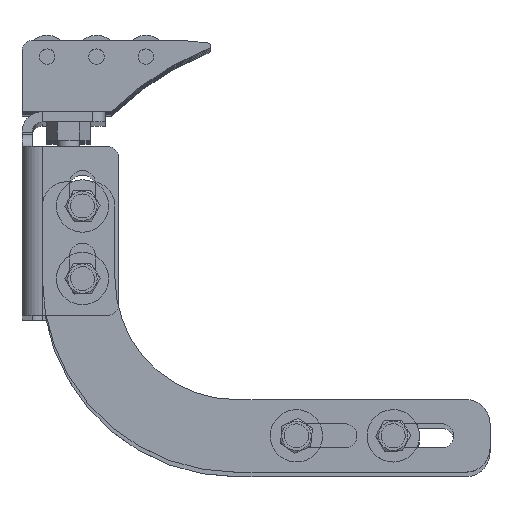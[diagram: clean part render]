
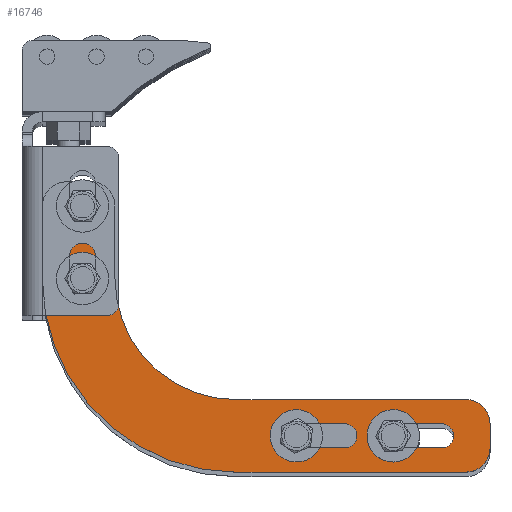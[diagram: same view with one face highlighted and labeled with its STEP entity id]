
A CAD part, top view. The second image highlights one B-rep face of the part: STEP entity #16746.
In plain terms, the highlighted planar face has unit normal (0, 0, 1) as drawn and (0, 0, -1) by its records, which use the part's own axes.
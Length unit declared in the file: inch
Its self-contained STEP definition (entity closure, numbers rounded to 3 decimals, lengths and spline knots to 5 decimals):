
#16099=DIRECTION('',(1.,0.,0.));
#16100=VECTOR('',#16099,0.5);
#16101=CARTESIAN_POINT('',(-4.125,0.5,-0.25));
#16102=LINE('',#16101,#16100);
#16213=DIRECTION('',(0.,-1.,0.));
#16214=VECTOR('',#16213,0.75);
#16215=CARTESIAN_POINT('',(0.,2.75,-0.25));
#16216=LINE('',#16215,#16214);
#16217=CARTESIAN_POINT('',(-0.25,2.75,-0.25));
#16218=DIRECTION('',(0.,0.,-1.));
#16219=DIRECTION('',(0.,1.,0.));
#16220=AXIS2_PLACEMENT_3D('',#16217,#16218,#16219);
#16222=DIRECTION('',(1.,0.,0.));
#16223=VECTOR('',#16222,0.25);
#16224=CARTESIAN_POINT('',(-0.5,3.,-0.25));
#16225=LINE('',#16224,#16223);
#16226=CARTESIAN_POINT('',(-0.5,2.75,-0.25));
#16227=DIRECTION('',(0.,0.,-1.));
#16228=DIRECTION('',(-1.,0.,0.));
#16229=AXIS2_PLACEMENT_3D('',#16226,#16227,#16228);
#16231=DIRECTION('',(0.,1.,0.));
#16232=VECTOR('',#16231,0.75);
#16233=CARTESIAN_POINT('',(-0.75,2.,-0.25));
#16234=LINE('',#16233,#16232);
#16235=CARTESIAN_POINT('',(-2.,2.,-0.25));
#16236=DIRECTION('',(0.,0.,1.));
#16237=DIRECTION('',(0.,-1.,0.));
#16238=AXIS2_PLACEMENT_3D('',#16235,#16236,#16237);
#16240=DIRECTION('',(1.,0.,0.));
#16241=VECTOR('',#16240,2.375);
#16242=CARTESIAN_POINT('',(-4.375,0.75,-0.25));
#16243=LINE('',#16242,#16241);
#16244=CARTESIAN_POINT('',(-4.375,0.5,-0.25));
#16245=DIRECTION('',(0.,0.,-1.));
#16246=DIRECTION('',(-1.,0.,0.));
#16247=AXIS2_PLACEMENT_3D('',#16244,#16245,#16246);
#16249=DIRECTION('',(0.,1.,0.));
#16250=VECTOR('',#16249,0.25);
#16251=CARTESIAN_POINT('',(-4.625,0.25,-0.25));
#16252=LINE('',#16251,#16250);
#16253=CARTESIAN_POINT('',(-4.375,0.25,-0.25));
#16254=DIRECTION('',(0.,0.,-1.));
#16255=DIRECTION('',(0.,-1.,0.));
#16256=AXIS2_PLACEMENT_3D('',#16253,#16254,#16255);
#16258=DIRECTION('',(-1.,0.,0.));
#16259=VECTOR('',#16258,2.375);
#16260=CARTESIAN_POINT('',(-2.,0.,-0.25));
#16261=LINE('',#16260,#16259);
#16262=CARTESIAN_POINT('',(-2.,2.,-0.25));
#16263=DIRECTION('',(0.,0.,-1.));
#16264=DIRECTION('',(1.,0.,0.));
#16265=AXIS2_PLACEMENT_3D('',#16262,#16263,#16264);
#16267=CARTESIAN_POINT('',(-0.4145,2.,-0.25));
#16268=DIRECTION('',(0.,0.,1.));
#16269=DIRECTION('',(1.,0.,0.));
#16270=AXIS2_PLACEMENT_3D('',#16267,#16268,#16269);
#16272=CARTESIAN_POINT('',(-0.4145,2.,-0.25));
#16273=DIRECTION('',(0.,0.,1.));
#16274=DIRECTION('',(-1.,0.,0.));
#16275=AXIS2_PLACEMENT_3D('',#16272,#16273,#16274);
#16277=CARTESIAN_POINT('',(-0.4145,2.75,-0.25));
#16278=DIRECTION('',(0.,0.,1.));
#16279=DIRECTION('',(1.,0.,0.));
#16280=AXIS2_PLACEMENT_3D('',#16277,#16278,#16279);
#16282=CARTESIAN_POINT('',(-0.4145,2.75,-0.25));
#16283=DIRECTION('',(0.,0.,1.));
#16284=DIRECTION('',(-1.,0.,0.));
#16285=AXIS2_PLACEMENT_3D('',#16282,#16283,#16284);
#16287=CARTESIAN_POINT('',(-2.625,0.375,-0.25));
#16288=DIRECTION('',(0.,0.,1.));
#16289=DIRECTION('',(1.,0.,0.));
#16290=AXIS2_PLACEMENT_3D('',#16287,#16288,#16289);
#16292=CARTESIAN_POINT('',(-2.625,0.375,-0.25));
#16293=DIRECTION('',(0.,0.,1.));
#16294=DIRECTION('',(0.,-1.,0.));
#16295=AXIS2_PLACEMENT_3D('',#16292,#16293,#16294);
#16297=CARTESIAN_POINT('',(-3.125,0.375,-0.25));
#16298=DIRECTION('',(0.,0.,1.));
#16299=DIRECTION('',(-1.,0.,0.));
#16300=AXIS2_PLACEMENT_3D('',#16297,#16298,#16299);
#16302=CARTESIAN_POINT('',(-3.125,0.375,-0.25));
#16303=DIRECTION('',(0.,0.,1.));
#16304=DIRECTION('',(0.,1.,0.));
#16305=AXIS2_PLACEMENT_3D('',#16302,#16303,#16304);
#16307=CARTESIAN_POINT('',(-3.625,0.375,-0.25));
#16308=DIRECTION('',(0.,0.,1.));
#16309=DIRECTION('',(1.,0.,0.));
#16310=AXIS2_PLACEMENT_3D('',#16307,#16308,#16309);
#16312=CARTESIAN_POINT('',(-3.625,0.375,-0.25));
#16313=DIRECTION('',(0.,0.,1.));
#16314=DIRECTION('',(0.,-1.,0.));
#16315=AXIS2_PLACEMENT_3D('',#16312,#16313,#16314);
#16317=CARTESIAN_POINT('',(-4.125,0.375,-0.25));
#16318=DIRECTION('',(0.,0.,1.));
#16319=DIRECTION('',(-1.,0.,0.));
#16320=AXIS2_PLACEMENT_3D('',#16317,#16318,#16319);
#16322=CARTESIAN_POINT('',(-4.125,0.375,-0.25));
#16323=DIRECTION('',(0.,0.,1.));
#16324=DIRECTION('',(0.,1.,0.));
#16325=AXIS2_PLACEMENT_3D('',#16322,#16323,#16324);
#16411=DIRECTION('',(1.,0.,0.));
#16412=VECTOR('',#16411,0.5);
#16413=CARTESIAN_POINT('',(-3.125,0.5,-0.25));
#16414=LINE('',#16413,#16412);
#16427=DIRECTION('',(-1.,0.,0.));
#16428=VECTOR('',#16427,0.5);
#16429=CARTESIAN_POINT('',(-2.625,0.25,-0.25));
#16430=LINE('',#16429,#16428);
#16451=DIRECTION('',(-1.,0.,0.));
#16452=VECTOR('',#16451,0.5);
#16453=CARTESIAN_POINT('',(-3.625,0.25,-0.25));
#16454=LINE('',#16453,#16452);
#16463=CARTESIAN_POINT('',(-0.25,3.,-0.25));
#16464=CARTESIAN_POINT('',(0.,2.75,-0.25));
#16465=VERTEX_POINT('',#16463);
#16466=VERTEX_POINT('',#16464);
#16471=CARTESIAN_POINT('',(-3.5,0.375,-0.25));
#16472=CARTESIAN_POINT('',(-3.625,0.5,-0.25));
#16473=VERTEX_POINT('',#16471);
#16474=VERTEX_POINT('',#16472);
#16476=CARTESIAN_POINT('',(-2.625,0.5,-0.25));
#16478=VERTEX_POINT('',#16476);
#16480=CARTESIAN_POINT('',(-0.75,2.,-0.25));
#16482=VERTEX_POINT('',#16480);
#16484=CARTESIAN_POINT('',(-0.31607,2.,-0.25));
#16486=VERTEX_POINT('',#16484);
#16488=CARTESIAN_POINT('',(-0.31607,2.75,-0.25));
#16490=VERTEX_POINT('',#16488);
#16499=CARTESIAN_POINT('',(-0.75,2.75,-0.25));
#16501=VERTEX_POINT('',#16499);
#16503=CARTESIAN_POINT('',(-0.51293,2.75,-0.25));
#16504=VERTEX_POINT('',#16503);
#16505=CARTESIAN_POINT('',(0.,2.,-0.25));
#16507=VERTEX_POINT('',#16505);
#16509=CARTESIAN_POINT('',(-3.125,0.5,-0.25));
#16510=VERTEX_POINT('',#16509);
#16518=CARTESIAN_POINT('',(-3.125,0.25,-0.25));
#16520=VERTEX_POINT('',#16518);
#16521=CARTESIAN_POINT('',(-2.,0.,-0.25));
#16522=VERTEX_POINT('',#16521);
#16523=CARTESIAN_POINT('',(-2.5,0.375,-0.25));
#16524=VERTEX_POINT('',#16523);
#16531=CARTESIAN_POINT('',(-4.375,0.,-0.25));
#16532=VERTEX_POINT('',#16531);
#16533=CARTESIAN_POINT('',(-4.125,0.25,-0.25));
#16534=VERTEX_POINT('',#16533);
#16535=CARTESIAN_POINT('',(-4.625,0.5,-0.25));
#16536=VERTEX_POINT('',#16535);
#16537=CARTESIAN_POINT('',(-3.625,0.25,-0.25));
#16538=VERTEX_POINT('',#16537);
#16549=CARTESIAN_POINT('',(-4.125,0.5,-0.25));
#16550=CARTESIAN_POINT('',(-4.25,0.375,-0.25));
#16551=VERTEX_POINT('',#16549);
#16552=VERTEX_POINT('',#16550);
#16555=CARTESIAN_POINT('',(-4.625,0.25,-0.25));
#16556=VERTEX_POINT('',#16555);
#16557=CARTESIAN_POINT('',(-2.625,0.25,-0.25));
#16558=VERTEX_POINT('',#16557);
#16562=CARTESIAN_POINT('',(-0.5,3.,-0.25));
#16564=VERTEX_POINT('',#16562);
#16565=CARTESIAN_POINT('',(-0.51293,2.,-0.25));
#16566=VERTEX_POINT('',#16565);
#16568=CARTESIAN_POINT('',(-4.375,0.75,-0.25));
#16570=VERTEX_POINT('',#16568);
#16571=CARTESIAN_POINT('',(-2.,0.75,-0.25));
#16572=VERTEX_POINT('',#16571);
#16573=CARTESIAN_POINT('',(-3.25,0.375,-0.25));
#16574=VERTEX_POINT('',#16573);
#16677=CARTESIAN_POINT('',(0.,0.,-0.25));
#16678=DIRECTION('',(0.,0.,1.));
#16679=DIRECTION('',(1.,0.,0.));
#16680=AXIS2_PLACEMENT_3D('',#16677,#16678,#16679);
#16681=PLANE('',#16680);
#16683=ORIENTED_EDGE('',*,*,#16682,.F.);
#16685=ORIENTED_EDGE('',*,*,#16684,.F.);
#16687=ORIENTED_EDGE('',*,*,#16686,.F.);
#16689=ORIENTED_EDGE('',*,*,#16688,.F.);
#16691=ORIENTED_EDGE('',*,*,#16690,.F.);
#16693=ORIENTED_EDGE('',*,*,#16692,.F.);
#16695=ORIENTED_EDGE('',*,*,#16694,.F.);
#16697=ORIENTED_EDGE('',*,*,#16696,.F.);
#16699=ORIENTED_EDGE('',*,*,#16698,.F.);
#16701=ORIENTED_EDGE('',*,*,#16700,.F.);
#16702=ORIENTED_EDGE('',*,*,#16667,.F.);
#16704=ORIENTED_EDGE('',*,*,#16703,.F.);
#16705=EDGE_LOOP('',(#16683,#16685,#16687,#16689,#16691,#16693,#16695,#16697,
#16699,#16701,#16702,#16704));
#16706=FACE_OUTER_BOUND('',#16705,.F.);
#16708=ORIENTED_EDGE('',*,*,#16707,.F.);
#16710=ORIENTED_EDGE('',*,*,#16709,.F.);
#16711=EDGE_LOOP('',(#16708,#16710));
#16712=FACE_BOUND('',#16711,.F.);
#16714=ORIENTED_EDGE('',*,*,#16713,.F.);
#16716=ORIENTED_EDGE('',*,*,#16715,.F.);
#16717=EDGE_LOOP('',(#16714,#16716));
#16718=FACE_BOUND('',#16717,.F.);
#16720=ORIENTED_EDGE('',*,*,#16719,.T.);
#16722=ORIENTED_EDGE('',*,*,#16721,.F.);
#16724=ORIENTED_EDGE('',*,*,#16723,.F.);
#16726=ORIENTED_EDGE('',*,*,#16725,.T.);
#16728=ORIENTED_EDGE('',*,*,#16727,.F.);
#16730=ORIENTED_EDGE('',*,*,#16729,.F.);
#16731=EDGE_LOOP('',(#16720,#16722,#16724,#16726,#16728,#16730));
#16732=FACE_BOUND('',#16731,.F.);
#16733=ORIENTED_EDGE('',*,*,#16584,.T.);
#16735=ORIENTED_EDGE('',*,*,#16734,.F.);
#16737=ORIENTED_EDGE('',*,*,#16736,.F.);
#16739=ORIENTED_EDGE('',*,*,#16738,.T.);
#16741=ORIENTED_EDGE('',*,*,#16740,.F.);
#16743=ORIENTED_EDGE('',*,*,#16742,.F.);
#16744=EDGE_LOOP('',(#16733,#16735,#16737,#16739,#16741,#16743));
#16745=FACE_BOUND('',#16744,.F.);
#16221=CIRCLE('',#16220,0.25);
#16230=CIRCLE('',#16229,0.25);
#16239=CIRCLE('',#16238,1.25);
#16248=CIRCLE('',#16247,0.25);
#16257=CIRCLE('',#16256,0.25);
#16266=CIRCLE('',#16265,2.);
#16271=CIRCLE('',#16270,0.09843);
#16276=CIRCLE('',#16275,0.09843);
#16281=CIRCLE('',#16280,0.09843);
#16286=CIRCLE('',#16285,0.09843);
#16291=CIRCLE('',#16290,0.125);
#16296=CIRCLE('',#16295,0.125);
#16301=CIRCLE('',#16300,0.125);
#16306=CIRCLE('',#16305,0.125);
#16311=CIRCLE('',#16310,0.125);
#16316=CIRCLE('',#16315,0.125);
#16321=CIRCLE('',#16320,0.125);
#16326=CIRCLE('',#16325,0.125);
#16584=EDGE_CURVE('',#16551,#16474,#16102,.T.);
#16667=EDGE_CURVE('',#16522,#16532,#16261,.T.);
#16682=EDGE_CURVE('',#16466,#16507,#16216,.T.);
#16684=EDGE_CURVE('',#16465,#16466,#16221,.T.);
#16686=EDGE_CURVE('',#16564,#16465,#16225,.T.);
#16688=EDGE_CURVE('',#16501,#16564,#16230,.T.);
#16690=EDGE_CURVE('',#16482,#16501,#16234,.T.);
#16692=EDGE_CURVE('',#16572,#16482,#16239,.T.);
#16694=EDGE_CURVE('',#16570,#16572,#16243,.T.);
#16696=EDGE_CURVE('',#16536,#16570,#16248,.T.);
#16698=EDGE_CURVE('',#16556,#16536,#16252,.T.);
#16700=EDGE_CURVE('',#16532,#16556,#16257,.T.);
#16703=EDGE_CURVE('',#16507,#16522,#16266,.T.);
#16707=EDGE_CURVE('',#16486,#16566,#16271,.T.);
#16709=EDGE_CURVE('',#16566,#16486,#16276,.T.);
#16713=EDGE_CURVE('',#16490,#16504,#16281,.T.);
#16715=EDGE_CURVE('',#16504,#16490,#16286,.T.);
#16719=EDGE_CURVE('',#16510,#16478,#16414,.T.);
#16721=EDGE_CURVE('',#16524,#16478,#16291,.T.);
#16723=EDGE_CURVE('',#16558,#16524,#16296,.T.);
#16725=EDGE_CURVE('',#16558,#16520,#16430,.T.);
#16727=EDGE_CURVE('',#16574,#16520,#16301,.T.);
#16729=EDGE_CURVE('',#16510,#16574,#16306,.T.);
#16734=EDGE_CURVE('',#16473,#16474,#16311,.T.);
#16736=EDGE_CURVE('',#16538,#16473,#16316,.T.);
#16738=EDGE_CURVE('',#16538,#16534,#16454,.T.);
#16740=EDGE_CURVE('',#16552,#16534,#16321,.T.);
#16742=EDGE_CURVE('',#16551,#16552,#16326,.T.);
#16746=ADVANCED_FACE('',(#16706,#16712,#16718,#16732,#16745),#16681,.F.);
